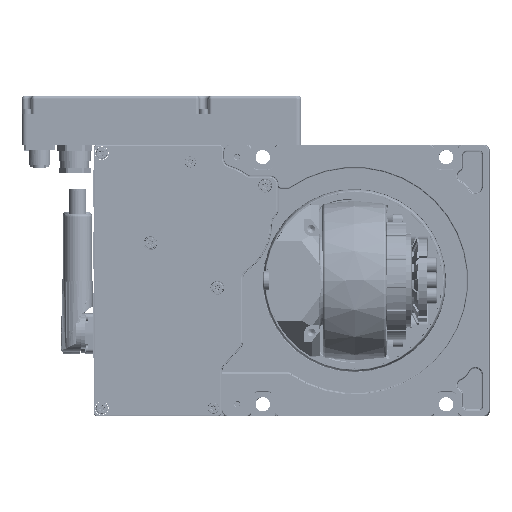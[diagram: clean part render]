
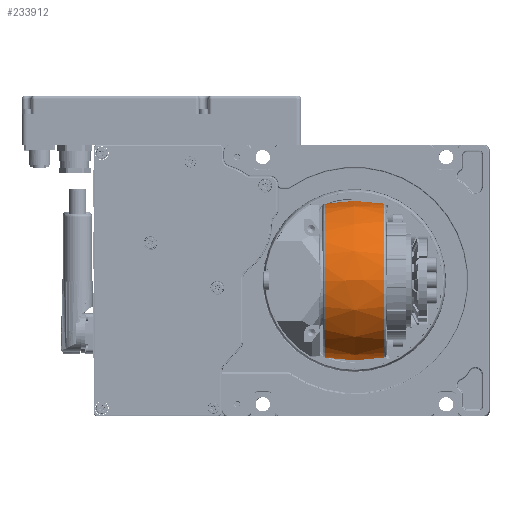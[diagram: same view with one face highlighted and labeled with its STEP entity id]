
A CAD part, top view. The second image highlights one B-rep face of the part: STEP entity #233912.
In plain terms, the highlighted free-form (B-spline) face has degree [2, 2] with [3, 9] control points.
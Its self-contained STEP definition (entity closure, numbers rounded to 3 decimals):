
#583=(
BOUNDED_SURFACE()
B_SPLINE_SURFACE(2,2,((#493534,#493535,#493536,#493537,#493538,#493539,
#493540,#493541,#493542),(#493543,#493544,#493545,#493546,#493547,#493548,
#493549,#493550,#493551),(#493552,#493553,#493554,#493555,#493556,#493557,
#493558,#493559,#493560)),.UNSPECIFIED.,.F.,.T.,.F.)
B_SPLINE_SURFACE_WITH_KNOTS((3,3),(3,2,2,2,3),(-0.185,0.185),
(-3.142,-1.571,0.,1.571,3.142),
 .UNSPECIFIED.)
GEOMETRIC_REPRESENTATION_ITEM()
RATIONAL_B_SPLINE_SURFACE(((1.,0.707,1.,0.707,1.,
0.707,1.,0.707,1.),(0.983,0.695,
0.983,0.695,0.983,0.695,
0.983,0.695,0.983),(1.,0.707,
1.,0.707,1.,0.707,1.,0.707,1.)))
REPRESENTATION_ITEM('')
SURFACE()
);
#18134=FACE_OUTER_BOUND('',#32246,.T.);
#32246=EDGE_LOOP('',(#174077,#174078,#174079,#174080,#174081,#174082));
#54531=CIRCLE('',#253859,48.299);
#54534=CIRCLE('',#253862,48.299);
#54535=CIRCLE('',#253863,100.);
#54536=CIRCLE('',#253864,48.299);
#54537=CIRCLE('',#253865,48.299);
#98878=VERTEX_POINT('',#493527);
#98879=VERTEX_POINT('',#493528);
#98881=VERTEX_POINT('',#493561);
#98882=VERTEX_POINT('',#493563);
#125725=EDGE_CURVE('',#98878,#98879,#54531,.T.);
#125728=EDGE_CURVE('',#98879,#98878,#54534,.T.);
#125729=EDGE_CURVE('',#98879,#98881,#54535,.T.);
#125730=EDGE_CURVE('',#98882,#98881,#54536,.T.);
#125731=EDGE_CURVE('',#98881,#98882,#54537,.T.);
#174077=ORIENTED_EDGE('',*,*,#125725,.T.);
#174078=ORIENTED_EDGE('',*,*,#125729,.T.);
#174079=ORIENTED_EDGE('',*,*,#125730,.F.);
#174080=ORIENTED_EDGE('',*,*,#125731,.F.);
#174081=ORIENTED_EDGE('',*,*,#125729,.F.);
#174082=ORIENTED_EDGE('',*,*,#125728,.T.);
#233912=ADVANCED_FACE('',(#18134),#583,.F.);
#253859=AXIS2_PLACEMENT_3D('',#493529,#293089,#293090);
#253862=AXIS2_PLACEMENT_3D('',#493533,#293095,#293096);
#253863=AXIS2_PLACEMENT_3D('',#493562,#293097,#293098);
#253864=AXIS2_PLACEMENT_3D('',#493564,#293099,#293100);
#253865=AXIS2_PLACEMENT_3D('',#493565,#293101,#293102);
#293089=DIRECTION('center_axis',(1.,0.002,
0.));
#293090=DIRECTION('ref_axis',(-0.002,0.866,0.5));
#293095=DIRECTION('center_axis',(1.,0.002,
0.));
#293096=DIRECTION('ref_axis',(-0.002,0.866,0.5));
#293097=DIRECTION('center_axis',(-0.002,1.,
0.));
#293098=DIRECTION('ref_axis',(0.,0.,
1.));
#293099=DIRECTION('center_axis',(1.,0.002,
0.));
#293100=DIRECTION('ref_axis',(-0.002,0.866,0.5));
#293101=DIRECTION('center_axis',(1.,0.002,
0.));
#293102=DIRECTION('ref_axis',(-0.002,0.866,0.5));
#493527=CARTESIAN_POINT('',(-18.266,-41.872,-0.099));
#493528=CARTESIAN_POINT('',(-18.367,-0.044,72.349));
#493529=CARTESIAN_POINT('Origin',(-18.367,-0.044,
24.05));
#493533=CARTESIAN_POINT('Origin',(-18.367,-0.044,
24.05));
#493534=CARTESIAN_POINT('Ctrl Pts',(-18.367,-0.044,
72.349));
#493535=CARTESIAN_POINT('Ctrl Pts',(-18.251,-48.343,
72.349));
#493536=CARTESIAN_POINT('Ctrl Pts',(-18.251,-48.343,24.05));
#493537=CARTESIAN_POINT('Ctrl Pts',(-18.251,-48.343,
-24.249));
#493538=CARTESIAN_POINT('Ctrl Pts',(-18.367,-0.044,
-24.249));
#493539=CARTESIAN_POINT('Ctrl Pts',(-18.484,48.254,
-24.249));
#493540=CARTESIAN_POINT('Ctrl Pts',(-18.484,48.254,
24.05));
#493541=CARTESIAN_POINT('Ctrl Pts',(-18.484,48.254,
72.349));
#493542=CARTESIAN_POINT('Ctrl Pts',(-18.367,-0.044,
72.349));
#493543=CARTESIAN_POINT('Ctrl Pts',(0.,0.,
75.781));
#493544=CARTESIAN_POINT('Ctrl Pts',(0.125,-51.731,
75.781));
#493545=CARTESIAN_POINT('Ctrl Pts',(0.125,-51.731,
24.05));
#493546=CARTESIAN_POINT('Ctrl Pts',(0.125,-51.731,
-27.681));
#493547=CARTESIAN_POINT('Ctrl Pts',(0.,0.,
-27.681));
#493548=CARTESIAN_POINT('Ctrl Pts',(-0.125,51.731,
-27.681));
#493549=CARTESIAN_POINT('Ctrl Pts',(-0.125,51.731,
24.05));
#493550=CARTESIAN_POINT('Ctrl Pts',(-0.125,51.731,
75.781));
#493551=CARTESIAN_POINT('Ctrl Pts',(0.,0.,
75.781));
#493552=CARTESIAN_POINT('Ctrl Pts',(18.367,0.044,
72.349));
#493553=CARTESIAN_POINT('Ctrl Pts',(18.484,-48.254,
72.349));
#493554=CARTESIAN_POINT('Ctrl Pts',(18.484,-48.254,
24.05));
#493555=CARTESIAN_POINT('Ctrl Pts',(18.484,-48.254,
-24.249));
#493556=CARTESIAN_POINT('Ctrl Pts',(18.367,0.044,
-24.249));
#493557=CARTESIAN_POINT('Ctrl Pts',(18.251,48.343,-24.249));
#493558=CARTESIAN_POINT('Ctrl Pts',(18.251,48.343,24.05));
#493559=CARTESIAN_POINT('Ctrl Pts',(18.251,48.343,72.349));
#493560=CARTESIAN_POINT('Ctrl Pts',(18.367,0.044,
72.349));
#493561=CARTESIAN_POINT('',(18.367,0.044,72.349));
#493562=CARTESIAN_POINT('Origin',(0.,0.,
-25.95));
#493563=CARTESIAN_POINT('',(18.468,-41.783,-0.099));
#493564=CARTESIAN_POINT('Origin',(18.367,0.044,24.05));
#493565=CARTESIAN_POINT('Origin',(18.367,0.044,24.05));
